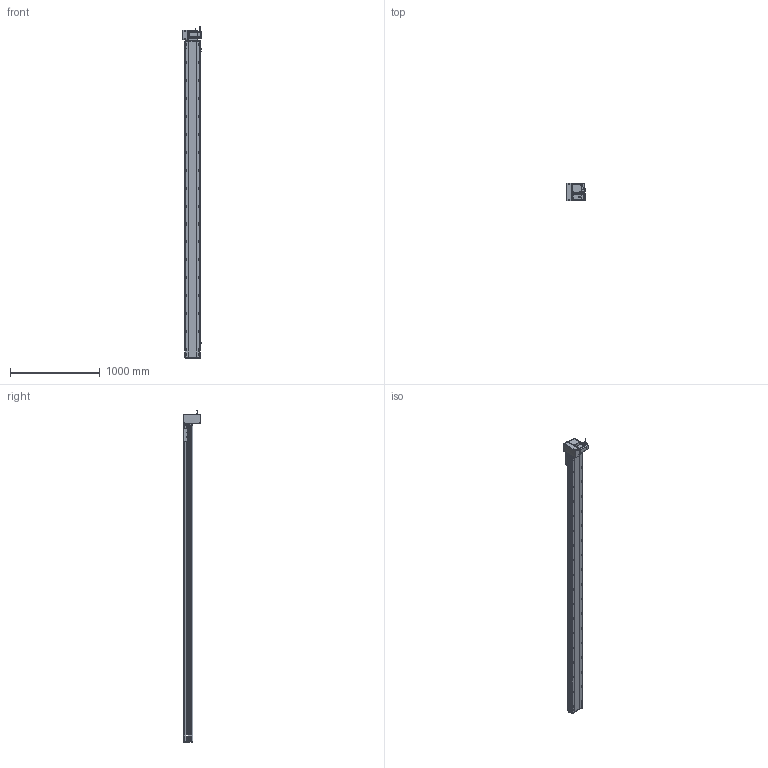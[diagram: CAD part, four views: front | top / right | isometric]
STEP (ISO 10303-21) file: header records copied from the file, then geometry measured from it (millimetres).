
FILE_DESCRIPTION (( 'STEP AP214' ), '1' );
FILE_NAME ('RTB17S-XX-3250-LM-M75-C4.STEP', '2025-12-12T00:51:13', ( '' ), ( '' ), 'SwSTEP 2.0', 'SolidWorks 2018', '' );
FILE_SCHEMA (( 'AUTOMOTIVE_DESIGN' ));
Length unit declared in the file: millimetre
Products named in the file (15): RTH13-BL-012覜茼え俋离^RTB17S-賑釱_RTB17S-XX-XX-LM-M75-C4; RTB17S-L-004-賑釱^RTB17S-賑釱_RTB17S-XX-XX-LM-M75-C4; RTB17S-L-001-耜醱啣^RTB17S-XX-XX-LM-M75-C4; EE672^RTB17S-XX-XX-LM-M75-C4; RTB22S-GY-005P^RTB17S-LM-々湍釱蚾饜-750W_RTB17S-XX-XX-LM-M75-C4; RTB17S-L-014-T20-P75--々湍釱^RTB17S-LM-々湍釱蚾饜-750W_RTB17S-XX-XX-LM-M75-C4; RTB22S-GY-018P^RTB17S-LM-々湍釱蚾饜-750W_RTB17S-XX-XX-LM-M75-C4; RTB17-R-011菁釱^RTB17S-XX-XX-LM-M75-C4; RTB17S-L-007奻裔^RTB17S-XX-XX-LM-M75-C4; RTB17S-賑釱^RTB17S-XX-XX-LM-M75-C4; RTB17S-LM-々湍釱蚾饜-750W^RTB17S-XX-XX-LM-M75-C4; RTB17S-XX-3250-LM-M75-C4; RTB22S-GY-008-M75--萇儂啣^RTB17S-LM-々湍釱蚾饜-750W_RTB17S-XX-XX-LM-M75-C4; 750W萇儂^RTB17S-XX-XX-LM-M75-C4; RTB22S-GY-017P^RTB17S-LM-々湍釱蚾饜-750W_RTB17S-XX-XX-LM-M75-C4
Assembly tree (17 placements, depth 3):
  RTB17S-XX-3250-LM-M75-C4
    RTB17-R-011菁釱^RTB17S-XX-XX-LM-M75-C4
    EE672^RTB17S-XX-XX-LM-M75-C4  x3
    RTB17S-L-001-耜醱啣^RTB17S-XX-XX-LM-M75-C4
    RTB17S-賑釱^RTB17S-XX-XX-LM-M75-C4
      RTB17S-L-004-賑釱^RTB17S-賑釱_RTB17S-XX-XX-LM-M75-C4
      RTH13-BL-012覜茼え俋离^RTB17S-賑釱_RTB17S-XX-XX-LM-M75-C4
    RTB17S-L-007奻裔^RTB17S-XX-XX-LM-M75-C4
    750W萇儂^RTB17S-XX-XX-LM-M75-C4
    RTB17S-LM-々湍釱蚾饜-750W^RTB17S-XX-XX-LM-M75-C4
      RTB17S-L-014-T20-P75--々湍釱^RTB17S-LM-々湍釱蚾饜-750W_RTB17S-XX-XX-LM-M75-C4
      RTB22S-GY-005P^RTB17S-LM-々湍釱蚾饜-750W_RTB17S-XX-XX-LM-M75-C4
      RTB22S-GY-017P^RTB17S-LM-々湍釱蚾饜-750W_RTB17S-XX-XX-LM-M75-C4  x2
      RTB22S-GY-008-M75--萇儂啣^RTB17S-LM-々湍釱蚾饜-750W_RTB17S-XX-XX-LM-M75-C4
      RTB22S-GY-018P^RTB17S-LM-々湍釱蚾饜-750W_RTB17S-XX-XX-LM-M75-C4
Bounding box: 210.4 x 200 x 3702.2 mm (x, y, z)
Volume: 26261004.2 mm3; surface area: 4836458.4 mm2
Topology: 17 solids, 17 shells, 2281 faces, 6430 edges, 4166 vertices
Faces by surface type: plane 994, cylinder 871, bspline 294, cone 110, sphere 8, torus 4
Entity records: 67318 total; most frequent: CARTESIAN_POINT 20094, ORIENTED_EDGE 9704, DIRECTION 8942, EDGE_CURVE 4852, AXIS2_PLACEMENT_3D 3186, VERTEX_POINT 3170, LINE 2570, VECTOR 2570
